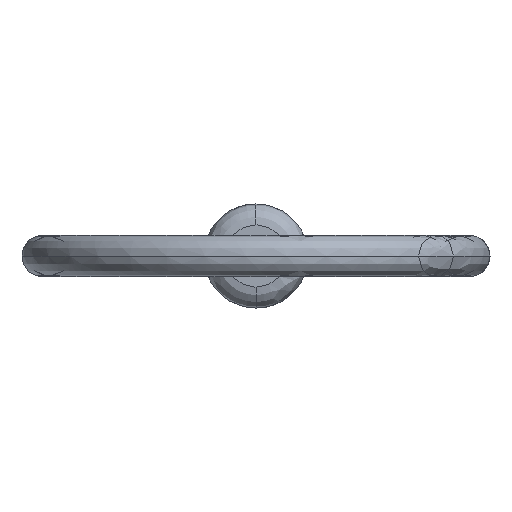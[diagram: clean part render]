
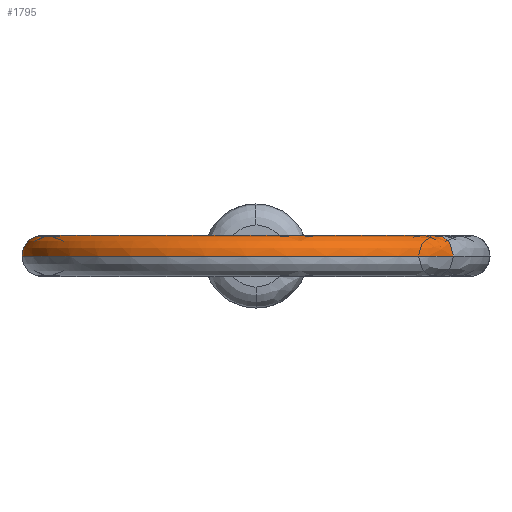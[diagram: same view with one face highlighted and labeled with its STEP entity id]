
A CAD part, left-side view. The second image highlights one B-rep face of the part: STEP entity #1795.
In plain terms, the highlighted free-form (B-spline) face has degree [3, 3] with [7, 4] control points.
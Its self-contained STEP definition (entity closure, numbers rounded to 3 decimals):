
#104 = ORIENTED_EDGE ( 'NONE', *, *, #126, .T. ) ;
#126 = EDGE_CURVE ( 'NONE', #634, #1090, #339, .T. ) ;
#172 = ORIENTED_EDGE ( 'NONE', *, *, #846, .F. ) ;
#245 = EDGE_CURVE ( 'NONE', #1302, #299, #557, .T. ) ;
#299 = VERTEX_POINT ( 'NONE', #645 ) ;
#307 = FACE_OUTER_BOUND ( 'NONE', #1783, .T. ) ;
#308 =( BOUNDED_SURFACE ( )  B_SPLINE_SURFACE ( 3, 3, ( 
 ( #309, #310, #311, #312 ),
 ( #313, #314, #315, #316 ),
 ( #319, #320, #321, #322 ),
 ( #323, #324, #325, #326 ),
 ( #327, #328, #329, #330 ),
 ( #331, #332, #333, #334 ),
 ( #335, #336, #337, #338 ) ),
 .UNSPECIFIED., .F., .F., .T. ) 
 B_SPLINE_SURFACE_WITH_KNOTS ( ( 4, 3, 4 ),
 ( 4, 4 ),
 ( 0.021, 0.5, 0.979 ),
 ( 0., 1. ),
 .UNSPECIFIED. ) 
 GEOMETRIC_REPRESENTATION_ITEM ( )  RATIONAL_B_SPLINE_SURFACE ( (
 ( 0.974, 0.325, 0.325, 0.974),
 ( 0.79, 0.263, 0.263, 0.79),
 ( 0.799, 0.266, 0.266, 0.799),
 ( 1., 0.333, 0.333, 1.),
 ( 0.799, 0.266, 0.266, 0.799),
 ( 0.79, 0.263, 0.263, 0.79),
 ( 0.974, 0.325, 0.325, 0.974) ) ) 
 REPRESENTATION_ITEM ( '' )  SURFACE ( )  );
#309 = CARTESIAN_POINT ( 'NONE',  ( -432.708, 9.49, 0. ) ) ;
#310 = CARTESIAN_POINT ( 'NONE',  ( -451.687, 21.574, 0. ) ) ;
#311 = CARTESIAN_POINT ( 'NONE',  ( -463.772, 2.595, 0. ) ) ;
#312 = CARTESIAN_POINT ( 'NONE',  ( -444.792, -9.49, 0. ) ) ;
#313 = CARTESIAN_POINT ( 'NONE',  ( -432.708, 9.49, 0.589 ) ) ;
#314 = CARTESIAN_POINT ( 'NONE',  ( -451.687, 21.574, 0.589 ) ) ;
#315 = CARTESIAN_POINT ( 'NONE',  ( -463.772, 2.595, 0.589 ) ) ;
#316 = CARTESIAN_POINT ( 'NONE',  ( -444.792, -9.49, 0.589 ) ) ;
#319 = CARTESIAN_POINT ( 'NONE',  ( -432.932, 9.138, 1. ) ) ;
#320 = CARTESIAN_POINT ( 'NONE',  ( -451.207, 20.774, 1. ) ) ;
#321 = CARTESIAN_POINT ( 'NONE',  ( -462.843, 2.499, 1. ) ) ;
#322 = CARTESIAN_POINT ( 'NONE',  ( -444.568, -9.138, 1. ) ) ;
#323 = CARTESIAN_POINT ( 'NONE',  ( -433.245, 8.646, 1. ) ) ;
#324 = CARTESIAN_POINT ( 'NONE',  ( -450.537, 19.656, 1. ) ) ;
#325 = CARTESIAN_POINT ( 'NONE',  ( -461.547, 2.364, 1. ) ) ;
#326 = CARTESIAN_POINT ( 'NONE',  ( -444.255, -8.646, 1. ) ) ;
#327 = CARTESIAN_POINT ( 'NONE',  ( -433.558, 8.155, 1. ) ) ;
#328 = CARTESIAN_POINT ( 'NONE',  ( -449.867, 18.539, 1. ) ) ;
#329 = CARTESIAN_POINT ( 'NONE',  ( -460.252, 2.23, 1. ) ) ;
#330 = CARTESIAN_POINT ( 'NONE',  ( -443.942, -8.155, 1. ) ) ;
#331 = CARTESIAN_POINT ( 'NONE',  ( -433.782, 7.803, 0.589 ) ) ;
#332 = CARTESIAN_POINT ( 'NONE',  ( -449.387, 17.739, 0.589 ) ) ;
#333 = CARTESIAN_POINT ( 'NONE',  ( -459.323, 2.134, 0.589 ) ) ;
#334 = CARTESIAN_POINT ( 'NONE',  ( -443.718, -7.803, 0.589 ) ) ;
#335 = CARTESIAN_POINT ( 'NONE',  ( -433.782, 7.803, 0. ) ) ;
#336 = CARTESIAN_POINT ( 'NONE',  ( -449.387, 17.739, 0. ) ) ;
#337 = CARTESIAN_POINT ( 'NONE',  ( -459.323, 2.134, 0. ) ) ;
#338 = CARTESIAN_POINT ( 'NONE',  ( -443.718, -7.803, 0. ) ) ;
#339 = CIRCLE ( 'NONE', #340, 1. ) ;
#340 = AXIS2_PLACEMENT_3D ( 'NONE', #341, #342, #343 ) ;
#341 = CARTESIAN_POINT ( 'NONE',  ( -433.245, 8.646, 0. ) ) ;
#342 = DIRECTION ( 'NONE',  ( -0.844, 0.537, 0. ) ) ;
#343 = DIRECTION ( 'NONE',  ( -0.537, -0.844, 0. ) ) ;
#462 = CARTESIAN_POINT ( 'NONE',  ( -444.792, -9.49, 0. ) ) ;
#557 =( BOUNDED_CURVE ( )  B_SPLINE_CURVE ( 3, ( #558, #559, #560, #561, #565, #566, #567 ),
 .UNSPECIFIED., .F., .T. ) 
 B_SPLINE_CURVE_WITH_KNOTS ( ( 4, 3, 4 ),
 ( 0.021, 0.5, 0.979 ),
 .UNSPECIFIED. ) 
 CURVE ( )  GEOMETRIC_REPRESENTATION_ITEM ( )  RATIONAL_B_SPLINE_CURVE ( ( 0.974, 0.79, 0.799, 1., 0.799, 0.79, 0.974 ) ) 
 REPRESENTATION_ITEM ( '' )  );
#558 = CARTESIAN_POINT ( 'NONE',  ( -444.792, -9.49, 0. ) ) ;
#559 = CARTESIAN_POINT ( 'NONE',  ( -444.792, -9.49, 0.589 ) ) ;
#560 = CARTESIAN_POINT ( 'NONE',  ( -444.568, -9.138, 1. ) ) ;
#561 = CARTESIAN_POINT ( 'NONE',  ( -444.255, -8.646, 1. ) ) ;
#565 = CARTESIAN_POINT ( 'NONE',  ( -443.942, -8.155, 1. ) ) ;
#566 = CARTESIAN_POINT ( 'NONE',  ( -443.718, -7.803, 0.589 ) ) ;
#567 = CARTESIAN_POINT ( 'NONE',  ( -443.718, -7.803, 0. ) ) ;
#599 = ORIENTED_EDGE ( 'NONE', *, *, #245, .T. ) ;
#634 = VERTEX_POINT ( 'NONE', #1173 ) ;
#645 = CARTESIAN_POINT ( 'NONE',  ( -443.718, -7.803, 0. ) ) ;
#699 = CIRCLE ( 'NONE', #700, 11.25 ) ;
#700 = AXIS2_PLACEMENT_3D ( 'NONE', #701, #702, #703 ) ;
#701 = CARTESIAN_POINT ( 'NONE',  ( -438.75, 0., 0. ) ) ;
#702 = DIRECTION ( 'NONE',  ( 0., 0., -1. ) ) ;
#703 = DIRECTION ( 'NONE',  ( -0.537, -0.844, 0. ) ) ;
#846 = EDGE_CURVE ( 'NONE', #634, #299, #1460, .T. ) ;
#1090 = VERTEX_POINT ( 'NONE', #1637 ) ;
#1173 = CARTESIAN_POINT ( 'NONE',  ( -433.782, 7.803, 0. ) ) ;
#1302 = VERTEX_POINT ( 'NONE', #462 ) ;
#1441 = EDGE_CURVE ( 'NONE', #1302, #1090, #699, .T. ) ;
#1460 = CIRCLE ( 'NONE', #1463, 9.25 ) ;
#1463 = AXIS2_PLACEMENT_3D ( 'NONE', #1464, #1465, #1466 ) ;
#1464 = CARTESIAN_POINT ( 'NONE',  ( -438.75, 0., 0. ) ) ;
#1465 = DIRECTION ( 'NONE',  ( 0., 0., 1. ) ) ;
#1466 = DIRECTION ( 'NONE',  ( -0.537, -0.844, 0. ) ) ;
#1532 = ORIENTED_EDGE ( 'NONE', *, *, #1441, .F. ) ;
#1637 = CARTESIAN_POINT ( 'NONE',  ( -432.708, 9.49, 0. ) ) ;
#1783 = EDGE_LOOP ( 'NONE', ( #1532, #599, #172, #104 ) ) ;
#1795 = ADVANCED_FACE ( 'NONE', ( #307 ), #308, .F. ) ;
